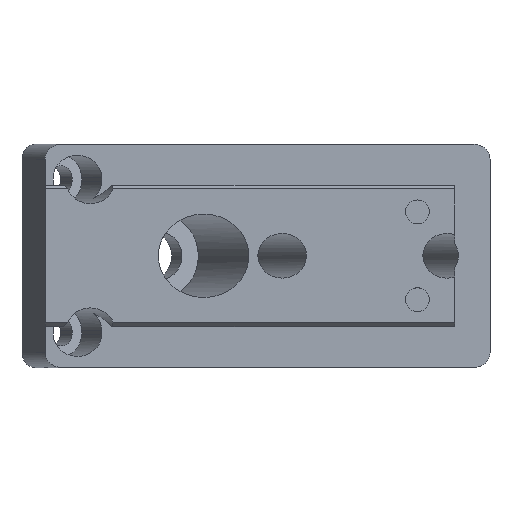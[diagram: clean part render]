
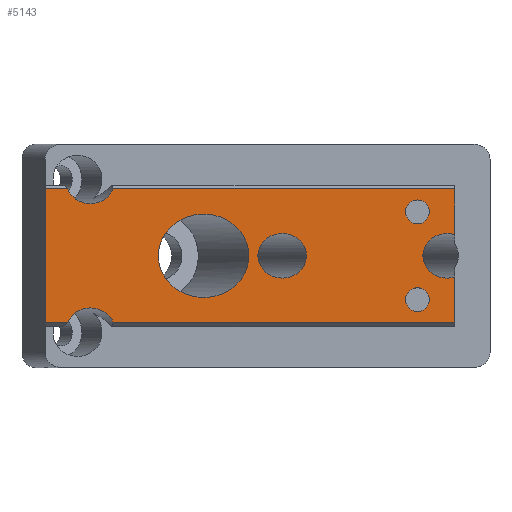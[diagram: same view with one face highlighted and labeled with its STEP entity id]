
A CAD part, top view. The second image highlights one B-rep face of the part: STEP entity #5143.
In plain terms, the highlighted planar face has unit normal (0, 0, 1).
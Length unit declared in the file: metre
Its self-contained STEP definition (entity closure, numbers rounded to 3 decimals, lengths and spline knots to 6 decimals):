
#252=ELLIPSE('',#5464,0.006084,0.0056);
#253=ELLIPSE('',#5465,0.003259,0.003);
#254=ELLIPSE('',#5468,0.003259,0.003);
#255=ELLIPSE('',#5469,0.003259,0.003);
#256=ELLIPSE('',#5470,0.003259,0.003);
#355=CIRCLE('',#5466,0.0016);
#356=CIRCLE('',#5467,0.0016);
#482=ORIENTED_EDGE('',*,*,#2062,.T.);
#483=ORIENTED_EDGE('',*,*,#2063,.T.);
#484=ORIENTED_EDGE('',*,*,#2064,.T.);
#485=ORIENTED_EDGE('',*,*,#2065,.T.);
#486=ORIENTED_EDGE('',*,*,#2066,.F.);
#487=ORIENTED_EDGE('',*,*,#2067,.T.);
#488=ORIENTED_EDGE('',*,*,#2068,.F.);
#489=ORIENTED_EDGE('',*,*,#2069,.T.);
#490=ORIENTED_EDGE('',*,*,#2070,.F.);
#491=ORIENTED_EDGE('',*,*,#2071,.T.);
#492=ORIENTED_EDGE('',*,*,#2072,.T.);
#493=ORIENTED_EDGE('',*,*,#2073,.T.);
#494=ORIENTED_EDGE('',*,*,#2074,.F.);
#495=ORIENTED_EDGE('',*,*,#2075,.T.);
#2062=EDGE_CURVE('',#2852,#2852,#252,.T.);
#2063=EDGE_CURVE('',#2853,#2853,#253,.T.);
#2064=EDGE_CURVE('',#2854,#2854,#355,.T.);
#2065=EDGE_CURVE('',#2855,#2855,#356,.T.);
#2066=EDGE_CURVE('',#2856,#2857,#3364,.T.);
#2067=EDGE_CURVE('',#2856,#2858,#254,.T.);
#2068=EDGE_CURVE('',#2859,#2858,#3365,.T.);
#2069=EDGE_CURVE('',#2859,#2860,#3366,.T.);
#2070=EDGE_CURVE('',#2861,#2860,#255,.F.);
#2071=EDGE_CURVE('',#2861,#2862,#3367,.T.);
#2072=EDGE_CURVE('',#2862,#2863,#3368,.T.);
#2073=EDGE_CURVE('',#2863,#2864,#3369,.T.);
#2074=EDGE_CURVE('',#2865,#2864,#256,.F.);
#2075=EDGE_CURVE('',#2865,#2857,#3370,.T.);
#2852=VERTEX_POINT('',#7047);
#2853=VERTEX_POINT('',#7049);
#2854=VERTEX_POINT('',#7051);
#2855=VERTEX_POINT('',#7053);
#2856=VERTEX_POINT('',#7055);
#2857=VERTEX_POINT('',#7056);
#2858=VERTEX_POINT('',#7058);
#2859=VERTEX_POINT('',#7060);
#2860=VERTEX_POINT('',#7062);
#2861=VERTEX_POINT('',#7064);
#2862=VERTEX_POINT('',#7066);
#2863=VERTEX_POINT('',#7068);
#2864=VERTEX_POINT('',#7070);
#2865=VERTEX_POINT('',#7072);
#3364=LINE('',#7054,#3863);
#3365=LINE('',#7059,#3864);
#3366=LINE('',#7061,#3865);
#3367=LINE('',#7065,#3866);
#3368=LINE('',#7067,#3867);
#3369=LINE('',#7069,#3868);
#3370=LINE('',#7073,#3869);
#3863=VECTOR('',#5858,1.);
#3864=VECTOR('',#5861,1.);
#3865=VECTOR('',#5862,1.);
#3866=VECTOR('',#5865,1.);
#3867=VECTOR('',#5866,1.);
#3868=VECTOR('',#5867,1.);
#3869=VECTOR('',#5870,1.);
#4349=EDGE_LOOP('',(#482));
#4350=EDGE_LOOP('',(#483));
#4351=EDGE_LOOP('',(#484));
#4352=EDGE_LOOP('',(#485));
#4353=EDGE_LOOP('',(#486,#487,#488,#489,#490,#491,#492,#493,#494,#495));
#4674=FACE_BOUND('',#4349,.T.);
#4675=FACE_BOUND('',#4350,.T.);
#4676=FACE_BOUND('',#4351,.T.);
#4677=FACE_BOUND('',#4352,.T.);
#4678=FACE_BOUND('',#4353,.T.);
#4991=PLANE('',#5463);
#5143=ADVANCED_FACE('',(#4674,#4675,#4676,#4677,#4678),#4991,.F.);
#5463=AXIS2_PLACEMENT_3D('',#7045,#5848,#5849);
#5464=AXIS2_PLACEMENT_3D('',#7046,#5850,#5851);
#5465=AXIS2_PLACEMENT_3D('',#7048,#5852,#5853);
#5466=AXIS2_PLACEMENT_3D('',#7050,#5854,#5855);
#5467=AXIS2_PLACEMENT_3D('',#7052,#5856,#5857);
#5468=AXIS2_PLACEMENT_3D('',#7057,#5859,#5860);
#5469=AXIS2_PLACEMENT_3D('',#7063,#5863,#5864);
#5470=AXIS2_PLACEMENT_3D('',#7071,#5868,#5869);
#5848=DIRECTION('',(0.,0.,-1.));
#5849=DIRECTION('',(-1.,0.,0.));
#5850=DIRECTION('',(0.,0.,-1.));
#5851=DIRECTION('',(-1.,0.,0.));
#5852=DIRECTION('',(0.,0.,-1.));
#5853=DIRECTION('',(-1.,0.,0.));
#5854=DIRECTION('',(0.,0.,-1.));
#5855=DIRECTION('',(-1.,0.,0.));
#5856=DIRECTION('',(0.,0.,-1.));
#5857=DIRECTION('',(-1.,0.,0.));
#5858=DIRECTION('',(0.,-1.,0.));
#5859=DIRECTION('',(0.,0.,-1.));
#5860=DIRECTION('',(-1.,0.,0.));
#5861=DIRECTION('',(0.,-1.,0.));
#5862=DIRECTION('',(-1.,0.,0.));
#5863=DIRECTION('',(0.,0.,-1.));
#5864=DIRECTION('',(-1.,0.,0.));
#5865=DIRECTION('',(-1.,0.,0.));
#5866=DIRECTION('',(0.,-1.,0.));
#5867=DIRECTION('',(1.,0.,0.));
#5868=DIRECTION('',(0.,0.,-1.));
#5869=DIRECTION('',(-1.,0.,0.));
#5870=DIRECTION('',(1.,0.,0.));
#7045=CARTESIAN_POINT('',(0.055,0.,0.0041));
#7046=CARTESIAN_POINT('',(0.021295,0.,0.0041));
#7047=CARTESIAN_POINT('',(0.015211,0.,0.0041));
#7048=CARTESIAN_POINT('',(0.031833,0.,0.0041));
#7049=CARTESIAN_POINT('',(0.028573,0.,0.0041));
#7050=CARTESIAN_POINT('',(0.05,0.0059,0.0041));
#7051=CARTESIAN_POINT('',(0.0484,0.0059,0.0041));
#7052=CARTESIAN_POINT('',(0.05,-0.0059,0.0041));
#7053=CARTESIAN_POINT('',(0.0484,-0.0059,0.0041));
#7054=CARTESIAN_POINT('',(0.055,0.,0.0041));
#7055=CARTESIAN_POINT('',(0.055,-0.002854,0.0041));
#7056=CARTESIAN_POINT('',(0.055,-0.009004,0.0041));
#7057=CARTESIAN_POINT('',(0.053994,0.,0.0041));
#7058=CARTESIAN_POINT('',(0.055,0.002854,0.0041));
#7059=CARTESIAN_POINT('',(0.055,0.,0.0041));
#7060=CARTESIAN_POINT('',(0.055,0.009004,0.0041));
#7061=CARTESIAN_POINT('',(0.,0.009004,0.0041));
#7062=CARTESIAN_POINT('',(0.00916,0.009004,0.0041));
#7063=CARTESIAN_POINT('',(0.006086,0.01,0.0041));
#7064=CARTESIAN_POINT('',(0.003011,0.009004,0.0041));
#7065=CARTESIAN_POINT('',(0.,0.009004,0.0041));
#7066=CARTESIAN_POINT('',(0.,0.009004,0.0041));
#7067=CARTESIAN_POINT('',(0.,0.,0.0041));
#7068=CARTESIAN_POINT('',(0.,-0.009004,0.0041));
#7069=CARTESIAN_POINT('',(0.055,-0.009004,0.0041));
#7070=CARTESIAN_POINT('',(0.003011,-0.009004,0.0041));
#7071=CARTESIAN_POINT('',(0.006086,-0.01,0.0041));
#7072=CARTESIAN_POINT('',(0.00916,-0.009004,0.0041));
#7073=CARTESIAN_POINT('',(0.055,-0.009004,0.0041));
